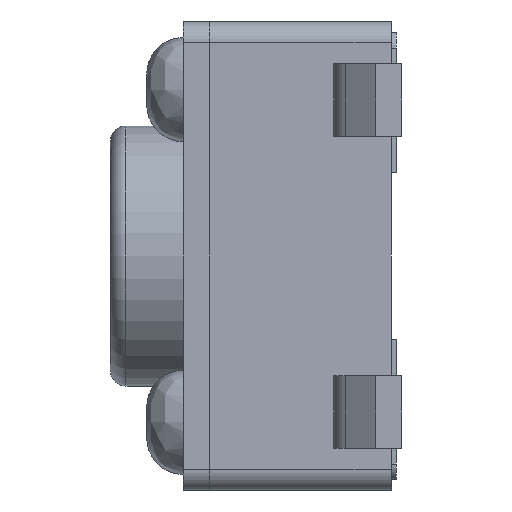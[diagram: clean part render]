
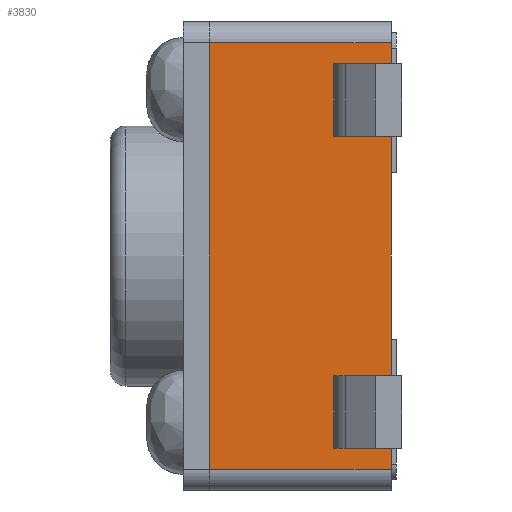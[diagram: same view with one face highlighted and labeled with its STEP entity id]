
A CAD part, left-side view. The second image highlights one B-rep face of the part: STEP entity #3830.
In plain terms, the highlighted planar face has unit normal (-1, 0, 0).
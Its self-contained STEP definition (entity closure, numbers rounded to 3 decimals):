
#40 = CARTESIAN_POINT ( 'NONE',  ( -2.25, 0.35, 0.65 ) ) ;
#45 = CARTESIAN_POINT ( 'NONE',  ( -2.25, 1.8, 2.05 ) ) ;
#263 = LINE ( 'NONE', #7517, #14693 ) ;
#667 = DIRECTION ( 'NONE',  ( 0., 1., 0. ) ) ;
#679 = ORIENTED_EDGE ( 'NONE', *, *, #7691, .F. ) ;
#811 = VECTOR ( 'NONE', #7538, 1000. ) ;
#844 = VERTEX_POINT ( 'NONE', #19268 ) ;
#1020 = DIRECTION ( 'NONE',  ( 0., 0., -1. ) ) ;
#1081 = LINE ( 'NONE', #18023, #10845 ) ;
#1161 = CARTESIAN_POINT ( 'NONE',  ( -2.25, 1.8, 2.05 ) ) ;
#1446 = DIRECTION ( 'NONE',  ( 0., 1., 0. ) ) ;
#1797 = EDGE_CURVE ( 'NONE', #8924, #4658, #2389, .T. ) ;
#2036 = CARTESIAN_POINT ( 'NONE',  ( -2.25, 0.6, 1.15 ) ) ;
#2303 = VECTOR ( 'NONE', #20588, 1000. ) ;
#2321 = EDGE_CURVE ( 'NONE', #20114, #20624, #14939, .T. ) ;
#2389 = LINE ( 'NONE', #45, #17808 ) ;
#2589 = ORIENTED_EDGE ( 'NONE', *, *, #18667, .F. ) ;
#2793 = EDGE_LOOP ( 'NONE', ( #5350, #2817, #19138, #7333 ) ) ;
#2817 = ORIENTED_EDGE ( 'NONE', *, *, #11514, .T. ) ;
#3256 = VERTEX_POINT ( 'NONE', #17567 ) ;
#3297 = ORIENTED_EDGE ( 'NONE', *, *, #17669, .F. ) ;
#3830 = ADVANCED_FACE ( 'NONE', ( #9868, #13446, #15523 ), #21185, .F. ) ;
#4028 = VERTEX_POINT ( 'NONE', #12801 ) ;
#4117 = VECTOR ( 'NONE', #15552, 1000. ) ;
#4371 = CARTESIAN_POINT ( 'NONE',  ( -2.25, 1.8, 2.05 ) ) ;
#4658 = VERTEX_POINT ( 'NONE', #9601 ) ;
#5350 = ORIENTED_EDGE ( 'NONE', *, *, #13079, .F. ) ;
#5608 = CARTESIAN_POINT ( 'NONE',  ( -2.25, 0.6, 2.05 ) ) ;
#5667 = CARTESIAN_POINT ( 'NONE',  ( -2.25, 0.6, -1.15 ) ) ;
#5669 = DIRECTION ( 'NONE',  ( 0., 0., -1. ) ) ;
#5866 = LINE ( 'NONE', #22803, #4117 ) ;
#6022 = VERTEX_POINT ( 'NONE', #22364 ) ;
#6223 = CARTESIAN_POINT ( 'NONE',  ( -2.25, 0.6, -1.85 ) ) ;
#6441 = CARTESIAN_POINT ( 'NONE',  ( -2.25, 0.6, 2.05 ) ) ;
#6480 = CARTESIAN_POINT ( 'NONE',  ( -2.25, 1.8, -2.05 ) ) ;
#7333 = ORIENTED_EDGE ( 'NONE', *, *, #12285, .F. ) ;
#7431 = ORIENTED_EDGE ( 'NONE', *, *, #10522, .F. ) ;
#7517 = CARTESIAN_POINT ( 'NONE',  ( -2.25, 0.35, 0.804 ) ) ;
#7538 = DIRECTION ( 'NONE',  ( 0., 0., 1. ) ) ;
#7691 = EDGE_CURVE ( 'NONE', #20624, #10890, #11114, .T. ) ;
#7767 = EDGE_CURVE ( 'NONE', #3256, #12641, #11368, .T. ) ;
#7886 = VECTOR ( 'NONE', #23626, 1000. ) ;
#8676 = EDGE_CURVE ( 'NONE', #844, #20114, #5866, .T. ) ;
#8783 = DIRECTION ( 'NONE',  ( 0., 0., -1. ) ) ;
#8924 = VERTEX_POINT ( 'NONE', #6480 ) ;
#9142 = DIRECTION ( 'NONE',  ( 0., 1., 0. ) ) ;
#9410 = VERTEX_POINT ( 'NONE', #22598 ) ;
#9601 = CARTESIAN_POINT ( 'NONE',  ( -2.25, 1.8, 2.05 ) ) ;
#9868 = FACE_BOUND ( 'NONE', #15524, .T. ) ;
#9978 = VECTOR ( 'NONE', #18732, 1000. ) ;
#10512 = LINE ( 'NONE', #12350, #13497 ) ;
#10522 = EDGE_CURVE ( 'NONE', #6022, #10573, #10512, .T. ) ;
#10573 = VERTEX_POINT ( 'NONE', #20210 ) ;
#10619 = EDGE_CURVE ( 'NONE', #10573, #8924, #24252, .T. ) ;
#10845 = VECTOR ( 'NONE', #1446, 1000. ) ;
#10890 = VERTEX_POINT ( 'NONE', #13946 ) ;
#11114 = LINE ( 'NONE', #20573, #9978 ) ;
#11150 = VECTOR ( 'NONE', #22660, 1000. ) ;
#11368 = LINE ( 'NONE', #2036, #11150 ) ;
#11514 = EDGE_CURVE ( 'NONE', #4028, #12641, #263, .T. ) ;
#11846 = DIRECTION ( 'NONE',  ( 1., 0., 0. ) ) ;
#11929 = CARTESIAN_POINT ( 'NONE',  ( -2.25, 0.35, 1.15 ) ) ;
#11961 = LINE ( 'NONE', #6441, #22570 ) ;
#12285 = EDGE_CURVE ( 'NONE', #9410, #3256, #11961, .T. ) ;
#12350 = CARTESIAN_POINT ( 'NONE',  ( -2.25, 0.05, 0.204 ) ) ;
#12634 = ORIENTED_EDGE ( 'NONE', *, *, #8676, .F. ) ;
#12641 = VERTEX_POINT ( 'NONE', #11929 ) ;
#12801 = CARTESIAN_POINT ( 'NONE',  ( -2.25, 0.35, 1.85 ) ) ;
#13079 = EDGE_CURVE ( 'NONE', #4028, #9410, #1081, .T. ) ;
#13446 = FACE_BOUND ( 'NONE', #2793, .T. ) ;
#13497 = VECTOR ( 'NONE', #8783, 1000. ) ;
#13946 = CARTESIAN_POINT ( 'NONE',  ( -2.25, 0.35, -1.85 ) ) ;
#13969 = ORIENTED_EDGE ( 'NONE', *, *, #10619, .F. ) ;
#14693 = VECTOR ( 'NONE', #5669, 1000. ) ;
#14939 = LINE ( 'NONE', #5608, #2303 ) ;
#15084 = VECTOR ( 'NONE', #9142, 1000. ) ;
#15514 = DIRECTION ( 'NONE',  ( 0., 0., 1. ) ) ;
#15523 = FACE_OUTER_BOUND ( 'NONE', #17171, .T. ) ;
#15524 = EDGE_LOOP ( 'NONE', ( #12634, #3297, #679, #22801 ) ) ;
#15552 = DIRECTION ( 'NONE',  ( 0., 1., 0. ) ) ;
#16860 = LINE ( 'NONE', #40, #811 ) ;
#16884 = CARTESIAN_POINT ( 'NONE',  ( -2.25, 1.8, -2.05 ) ) ;
#17021 = ORIENTED_EDGE ( 'NONE', *, *, #1797, .F. ) ;
#17171 = EDGE_LOOP ( 'NONE', ( #2589, #17021, #13969, #7431 ) ) ;
#17567 = CARTESIAN_POINT ( 'NONE',  ( -2.25, 0.6, 1.15 ) ) ;
#17669 = EDGE_CURVE ( 'NONE', #10890, #844, #16860, .T. ) ;
#17808 = VECTOR ( 'NONE', #15514, 1000. ) ;
#17980 = LINE ( 'NONE', #1161, #7886 ) ;
#18023 = CARTESIAN_POINT ( 'NONE',  ( -2.25, 0.6, 1.85 ) ) ;
#18667 = EDGE_CURVE ( 'NONE', #4658, #6022, #17980, .T. ) ;
#18732 = DIRECTION ( 'NONE',  ( 0., -1., 0. ) ) ;
#19138 = ORIENTED_EDGE ( 'NONE', *, *, #7767, .F. ) ;
#19268 = CARTESIAN_POINT ( 'NONE',  ( -2.25, 0.35, -1.15 ) ) ;
#20114 = VERTEX_POINT ( 'NONE', #5667 ) ;
#20210 = CARTESIAN_POINT ( 'NONE',  ( -2.25, 0.05, -2.05 ) ) ;
#20573 = CARTESIAN_POINT ( 'NONE',  ( -2.25, 0.6, -1.85 ) ) ;
#20588 = DIRECTION ( 'NONE',  ( 0., 0., -1. ) ) ;
#20624 = VERTEX_POINT ( 'NONE', #6223 ) ;
#21185 = PLANE ( 'NONE',  #23372 ) ;
#22364 = CARTESIAN_POINT ( 'NONE',  ( -2.25, 0.05, 2.05 ) ) ;
#22570 = VECTOR ( 'NONE', #1020, 1000. ) ;
#22598 = CARTESIAN_POINT ( 'NONE',  ( -2.25, 0.6, 1.85 ) ) ;
#22660 = DIRECTION ( 'NONE',  ( 0., -1., 0. ) ) ;
#22801 = ORIENTED_EDGE ( 'NONE', *, *, #2321, .F. ) ;
#22803 = CARTESIAN_POINT ( 'NONE',  ( -2.25, 1.8, -1.15 ) ) ;
#23372 = AXIS2_PLACEMENT_3D ( 'NONE', #4371, #11846, #667 ) ;
#23626 = DIRECTION ( 'NONE',  ( 0., -1., 0. ) ) ;
#24252 = LINE ( 'NONE', #16884, #15084 ) ;
